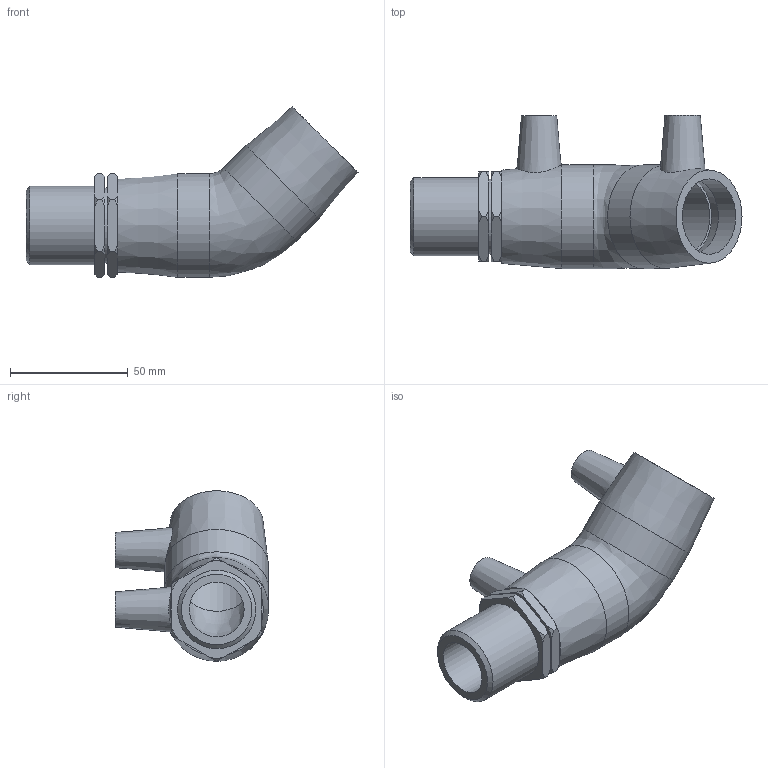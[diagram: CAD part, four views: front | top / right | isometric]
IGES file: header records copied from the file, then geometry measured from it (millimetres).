
Global section: file name: 497604032010.ipt; native system: Autodesk Inventor 2015; preprocessor: unknown; author: KIM; date: 20171106.094433; units: millimetre
Bounding box: 141 x 65 x 72.45 mm (x, y, z)
Volume: 112418.4 mm3; surface area: 37798 mm2
Topology: 1 solids, 2 shells, 77 faces, 194 edges, 133 vertices
Faces by surface type: plane 30, cone 29, revolution 9, cylinder 8, bspline 1
Full cylindrical faces by diameter (mm): 4 x2, 32 x3, 33.249 x1, 44 x2
